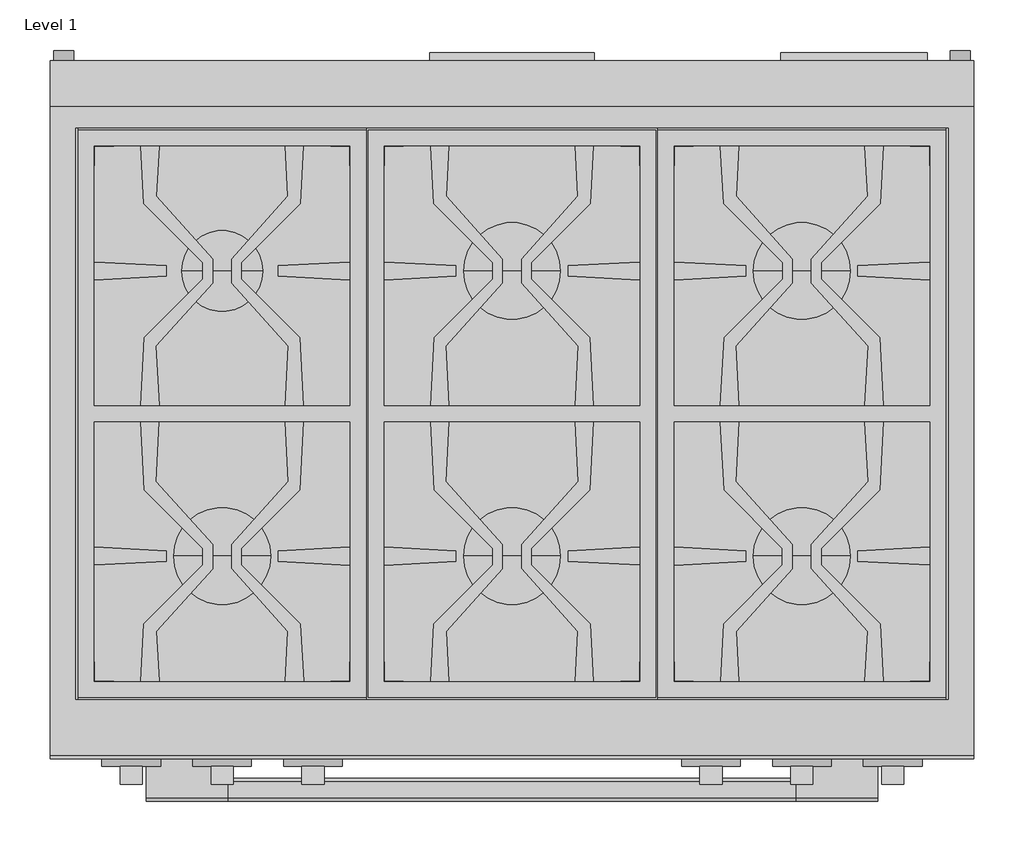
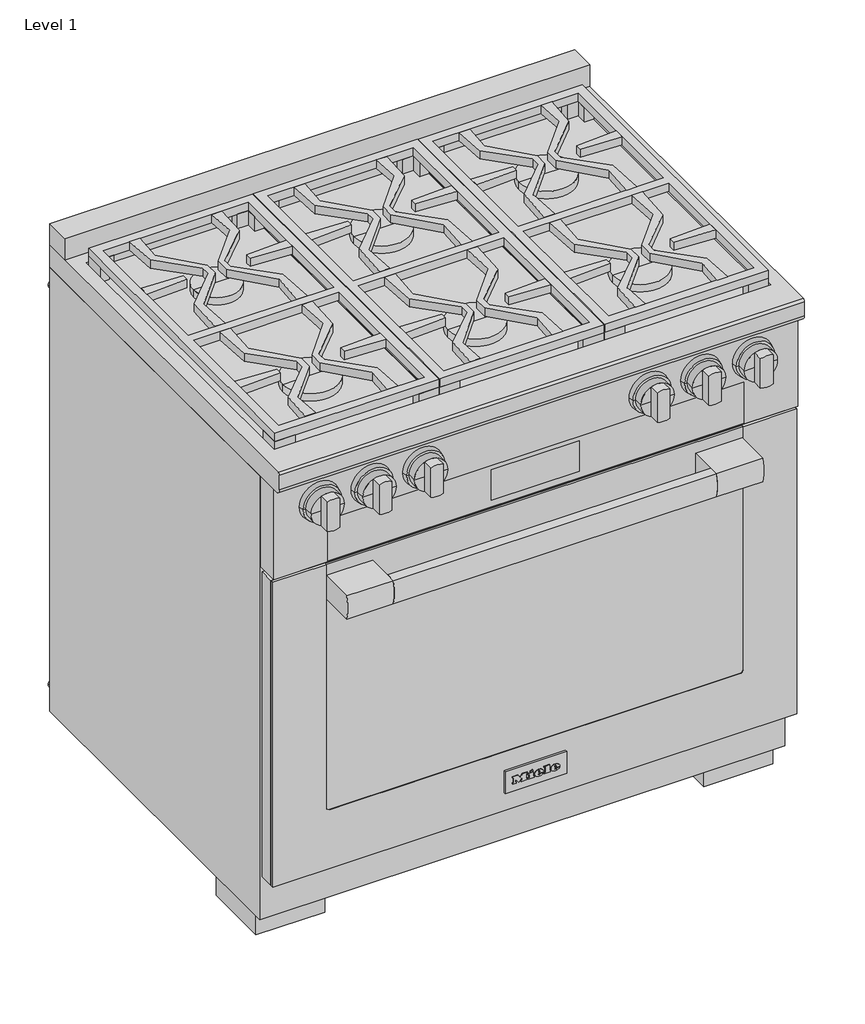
# One storey: 1 proxy.
"""IFC4 building model written with IfcOpenShell, lengths in millimetres."""

from ifc_helpers import new_model, si_unit, origin, place, context, project, spatial, transform, mapped, element, save
from components import specialty_equipment_1dc6350c, specialty_equipment_75fcdb14

model = new_model("IFC4")

# Units and contexts
model_context = context("Model", 3, world=origin())
ifc_project = project(units=[si_unit("LENGTHUNIT", "METRE", prefix="MILLI")], contexts=[model_context])

# Site, building, storey
site = spatial("IfcSite", under=ifc_project)
building = spatial("IfcBuilding", under=site)
storey = spatial("IfcBuildingStorey", under=building, Name="Level 1", Elevation=0.0)

# Proxy
placement = place(None, origin())
specialty_equipment_shape = specialty_equipment_1dc6350c(model_context)
specialty_equipment_2_shape = specialty_equipment_75fcdb14(model_context)
element("IfcBuildingElementProxy", 1, Name="11791590_USA_HR1934-3LP_EDST-CLS : 25193482_USA_11791590_HR1934-3LP_EDST-CLS", ObjectType="11791590_USA_HR1934-3LP_EDST-CLS : 25193482_USA_11791590_HR1934-3LP_EDST-CLS", at=placement, inside=storey, context=model_context, shape_type="MappedRepresentation", body=[
    mapped(specialty_equipment_shape, transform((0.0, 0.0, 0.0), x_axis=(1.0, 0.0, 0.0), y_axis=(0.0, 1.0, 0.0), z_axis=(0.0, 0.0, 1.0))),
    mapped(specialty_equipment_2_shape, transform((0.0, 0.0, 0.0), x_axis=(1.0, 0.0, 0.0), y_axis=(0.0, 1.0, 0.0), z_axis=(0.0, 0.0, 1.0))),
])

save(model, "model.ifc")
